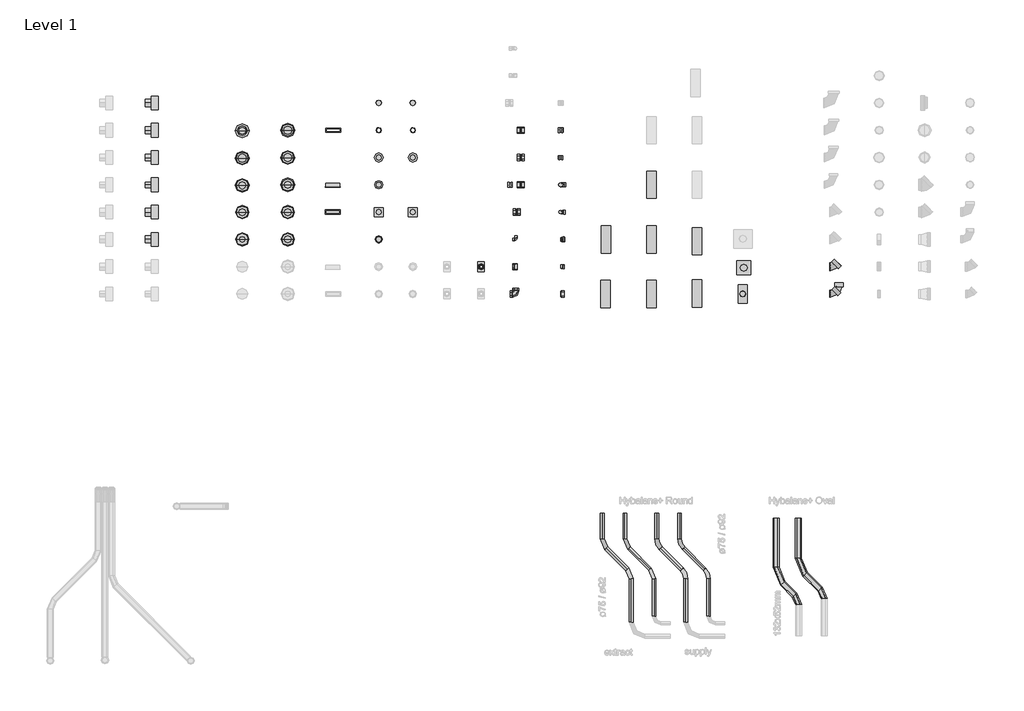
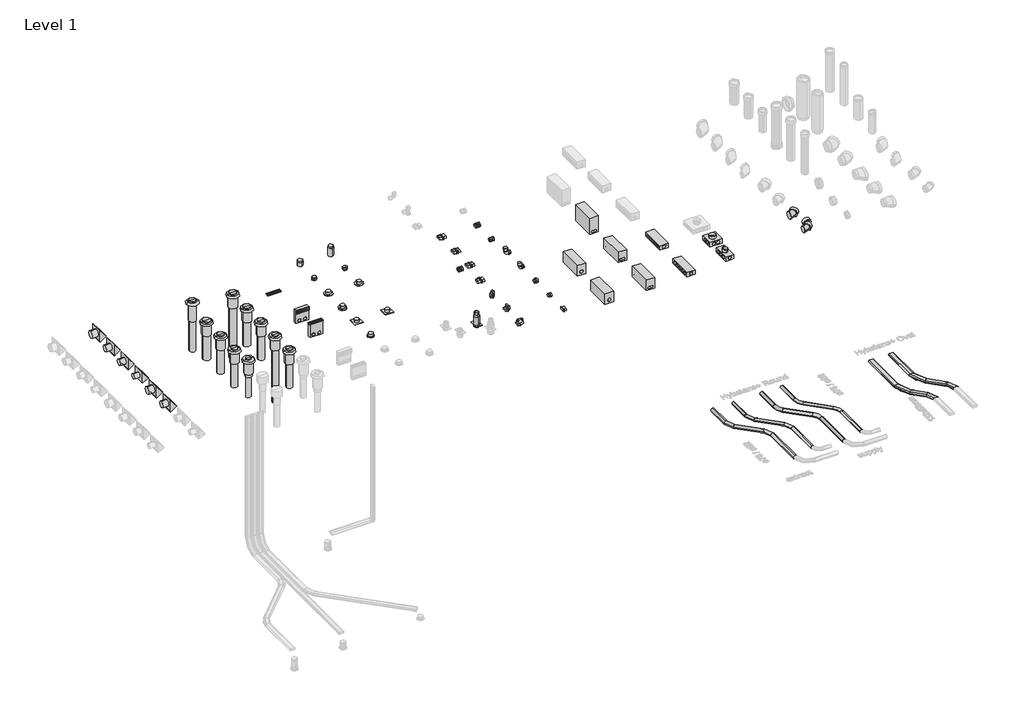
# One storey, part 3 of 5: 30 duct fittings, 28 duct segments, 27 air terminals, 2 coverings.
"""IFC4 building model written with IfcOpenShell, lengths in millimetres."""

from ifc_helpers import new_model, si_unit, point, frame, frame_2d, origin, place, context, project, spatial, polyline, circle_curve, trimmed, segment, composite_curve, outline, extrude, transform, mapped, element, save
from components import air_terminal_4240cf22, air_terminal_7d90cc17, air_terminal_4465b07e, air_terminal_abea36ea, air_terminal_9c352d63, air_terminal_46879f65, air_terminal_f5bad940, air_terminal_684b394b, air_terminal_f5742492, air_terminal_188eb895, floor_plenum_d3dd77eb, grille_332x94_5d2099c3, turn_edecbddc, black_160_5426341e, black_180_da10aded, wall_plenum_3c2bf3b1, wave_6b82bb6b, black_125_071c14e0, black_150_34886671, covering_845dcc57, duct_fitting_1cda5c5c, duct_fitting_089aa9a1, duct_fitting_6cd177ab, duct_fitting_c65a407a, duct_fitting_69f5a1d6, duct_fitting_607b8d79, duct_fitting_265251c9, duct_fitting_e02605c4, duct_fitting_4bbd28bd, duct_fitting_542e432b, duct_fitting_599ff9e1, duct_fitting_77628266, duct_fitting_394e68cb, duct_fitting_36d2aa07, duct_fitting_84124fbc, duct_fitting_f3df8d97, duct_fitting_2c451d22, duct_fitting_132x52_f9d3be6e, duct_fitting_132x52_e1013fcc, duct_fitting_132x52_nested_272e3c26, duct_fitting_132x52_fc9fea9f, duct_fitting_132x52_0ce7a236, duct_fitting_450_12_dn150_62d17831, duct_fitting_450_12_dn180_e2c94f1d, duct_segment_c730130c, duct_segment_8b9e26e7, duct_segment_5930516e, duct_segment_d282bd4d, extract_132x52_red_d2bc55af, extract_132x52_red_960e4565, supply_132x52_blue_7206dcc0

model = new_model("IFC4")

# Units and contexts
model_context = context("Model", 3, world=origin())
ifc_project = project(units=[si_unit("LENGTHUNIT", "METRE", prefix="MILLI")], contexts=[model_context])

# Site, building, storey
site = spatial("IfcSite", under=ifc_project)
building = spatial("IfcBuilding", under=site)
storey = spatial("IfcBuildingStorey", under=building, Name="Level 1", Elevation=0.0)

# Air terminals
placement = place(None, origin())
air_terminal_shape = air_terminal_4240cf22(model_context)
element("IfcAirTerminal", 1, ObjectType="NLRS_57_AIR_WPB_roof ventilation terminals_M&G : EPS Black, ø150 - L=1000mm", at=placement, inside=storey, context=model_context, shape_type="MappedRepresentation", body=[
    mapped(air_terminal_shape, transform((-12492.1903803, 8019.2351178, 0.0), x_axis=(1.0, 0.0, 0.0), y_axis=(0.0, 1.0, 0.0), z_axis=(0.0, 0.0, 1.0))),
])
air_terminal_2_shape = air_terminal_7d90cc17(model_context)
element("IfcAirTerminal", 2, ObjectType="NLRS_57_AIR_WPB_roof ventilation terminals_M&G : EPS Terra, ø150 - L=1000mm", at=placement, inside=storey, context=model_context, shape_type="MappedRepresentation", body=[
    mapped(air_terminal_2_shape, transform((-13492.1903803, 8619.2351178, 0.0), x_axis=(1.0, 0.0, 0.0), y_axis=(0.0, 1.0, 0.0), z_axis=(0.0, 0.0, 1.0))),
])
air_terminal_3_shape = air_terminal_4465b07e(model_context)
element("IfcAirTerminal", 3, ObjectType="NLRS_57_AIR_WPB_roof ventilation terminals_M&G : EPS Black, ø150 - L=1750mm", at=placement, inside=storey, context=model_context, shape_type="MappedRepresentation", body=[
    mapped(air_terminal_3_shape, transform((-12492.1903803, 8619.2351178, 0.0), x_axis=(1.0, 0.0, 0.0), y_axis=(0.0, 1.0, 0.0), z_axis=(0.0, 0.0, 1.0))),
])
air_terminal_4_shape = air_terminal_abea36ea(model_context)
element("IfcAirTerminal", 4, ObjectType="NLRS_57_AIR_WPB_roof ventilation terminals_M&G : EPS Terra, ø180 - L=1000mm", at=placement, inside=storey, context=model_context, shape_type="MappedRepresentation", body=[
    mapped(air_terminal_4_shape, transform((-13492.1903803, 9806.3807486, 0.0), x_axis=(1.0, 0.0, 0.0), y_axis=(0.0, 1.0, 0.0), z_axis=(0.0, 0.0, 1.0))),
])
air_terminal_5_shape = air_terminal_9c352d63(model_context)
element("IfcAirTerminal", 5, ObjectType="NLRS_57_AIR_WPB_roof ventilation terminals_M&G : EPS Black, ø180 - L=1675mm", at=placement, inside=storey, context=model_context, shape_type="MappedRepresentation", body=[
    mapped(air_terminal_5_shape, transform((-12492.1903803, 10419.2351178, 0.0), x_axis=(1.0, 0.0, 0.0), y_axis=(0.0, 1.0, 0.0), z_axis=(0.0, 0.0, 1.0))),
])
air_terminal_6_shape = air_terminal_46879f65(model_context)
element("IfcAirTerminal", 6, ObjectType="NLRS_57_AIR_WPB_roof ventilation terminals_M&G : PP Black, ø150 - L=1310mm", at=placement, inside=storey, context=model_context, shape_type="MappedRepresentation", body=[
    mapped(air_terminal_6_shape, transform((-13492.1903803, 10406.3807486, 0.0), x_axis=(1.0, 0.0, 0.0), y_axis=(0.0, 1.0, 0.0), z_axis=(0.0, 0.0, 1.0))),
])
air_terminal_7_shape = air_terminal_f5bad940(model_context)
element("IfcAirTerminal", 7, ObjectType="NLRS_57_AIR_WPB_roof ventilation terminals_M&G : EPS Black, ø160 - L=1000mm", at=placement, inside=storey, context=model_context, shape_type="MappedRepresentation", body=[
    mapped(air_terminal_7_shape, transform((-12492.1903803, 9219.2351178, 0.0), x_axis=(1.0, 0.0, 0.0), y_axis=(0.0, 1.0, 0.0), z_axis=(0.0, 0.0, 1.0))),
])
element("IfcAirTerminal", 8, ObjectType="NLRS_57_AIR_WPB_roof ventilation terminals_M&G : EPS Terra, ø160 - L=1000mm", at=placement, inside=storey, context=model_context, shape_type="MappedRepresentation", body=[
    mapped(air_terminal_7_shape, transform((-13492.1903803, 9206.3807486, 0.0), x_axis=(1.0, 0.0, 0.0), y_axis=(0.0, 1.0, 0.0), z_axis=(0.0, 0.0, 1.0))),
])
air_terminal_8_shape = air_terminal_684b394b(model_context)
element("IfcAirTerminal", 9, ObjectType="NLRS_57_AIR_WPB_roof ventilation terminals_M&G : EPS Terra, ø125 - L=1000mm", at=placement, inside=storey, context=model_context, shape_type="MappedRepresentation", body=[
    mapped(air_terminal_8_shape, transform((-13492.1903803, 8019.2351178, 0.0), x_axis=(1.0, 0.0, 0.0), y_axis=(0.0, 1.0, 0.0), z_axis=(0.0, 0.0, 1.0))),
])
air_terminal_9_shape = air_terminal_f5742492(model_context)
element("IfcAirTerminal", 10, ObjectType="NLRS_57_AIR_WPB_extraction air valve_M&G : Kwadrant", at=placement, inside=storey, context=model_context, shape_type="MappedRepresentation", body=[
    mapped(air_terminal_9_shape, transform((-10492.1903803, 8019.2351178, 0.0), x_axis=(1.0, 0.0, 0.0), y_axis=(0.0, 1.0, 0.0), z_axis=(0.0, 0.0, 1.0))),
])
air_terminal_10_shape = air_terminal_188eb895(model_context)
element("IfcAirTerminal", 11, ObjectType="NLRS_57_AIR_WPB_extraction air valve_M&G : Maze", at=placement, inside=storey, context=model_context, shape_type="MappedRepresentation", body=[
    mapped(air_terminal_10_shape, transform((-10492.1903803, 8619.2351178, 0.0), x_axis=(1.0, 0.0, 0.0), y_axis=(0.0, 1.0, 0.0), z_axis=(0.0, 0.0, 1.0))),
])
element("IfcAirTerminal", 12, ObjectType="NLRS_57_AIR_WPB_supply air valve_M&G : Maze", at=placement, inside=storey, context=model_context, shape_type="MappedRepresentation", body=[
    mapped(air_terminal_10_shape, transform((-9742.1903803, 8619.2351178, 0.0), x_axis=(1.0, 0.0, 0.0), y_axis=(0.0, 1.0, 0.0), z_axis=(0.0, 0.0, 1.0))),
])
element("IfcAirTerminal", 13, ObjectType="NLRS_57_AIR_WPB_roof ventilation terminals_M&G : EPS Black, ø180 - L=1000mm", at=placement, inside=storey, context=model_context, shape_type="MappedRepresentation", body=[
    mapped(air_terminal_4_shape, transform((-12492.1903803, 9819.2351178, 0.0), x_axis=(1.0, 0.0, 0.0), y_axis=(0.0, 1.0, 0.0), z_axis=(0.0, 0.0, 1.0))),
])
floor_plenum_shape = floor_plenum_d3dd77eb(model_context)
element("IfcAirTerminal", 14, ObjectType="NLRS_57_AIR_LB_wall_floor mounted plenum with grill_M&G : Floor plenum", at=placement, inside=storey, context=model_context, shape_type="MappedRepresentation", body=[
    mapped(floor_plenum_shape, transform((-11500.4403803, 8619.2351178, 0.0), x_axis=(1.0, 0.0, 0.0), y_axis=(0.0, 1.0, 0.0), z_axis=(0.0, 0.0, 1.0))),
])
grille_332x94_shape = grille_332x94_5d2099c3(model_context)
element("IfcAirTerminal", 15, ObjectType="NLRS_57_AIR_WPB_grille for plenum_M&G : Grille 332x94", at=placement, inside=storey, context=model_context, shape_type="MappedRepresentation", body=[
    mapped(grille_332x94_shape, transform((-11489.4403803, 10419.2351178, 0.0), x_axis=(1.0, 0.0, 0.0), y_axis=(0.0, -1.0, 0.0), z_axis=(0.0, 0.0, -1.0))),
])
element("IfcAirTerminal", 16, ObjectType="NLRS_57_AIR_WPB_grille for plenum_M&G : Grille 332x94", at=placement, inside=storey, context=model_context, shape_type="MappedRepresentation", body=[
    mapped(grille_332x94_shape, transform((-11500.4403803, 8619.2351178, 342.0), x_axis=(1.0, 0.0, 0.0), y_axis=(0.0, -1.0, 0.0), z_axis=(0.0, 0.0, -1.0))),
])
element("IfcAirTerminal", 17, ObjectType="NLRS_57_AIR_WPB_grille for plenum_M&G : Grille 332x94", at=placement, inside=storey, context=model_context, shape_type="MappedRepresentation", body=[
    mapped(grille_332x94_shape, transform((-11500.4403803, 9172.7351178, 295.0), x_axis=(1.0, 0.0, 0.0), y_axis=(0.0, 0.0, -1.0), z_axis=(0.0, 1.0, 0.0))),
])
turn_shape = turn_edecbddc(model_context)
element("IfcAirTerminal", 18, ObjectType="NLRS_57_AIR_WPB_extraction air valve_M&G : Turn", at=placement, inside=storey, context=model_context, shape_type="MappedRepresentation", body=[
    mapped(turn_shape, transform((-10492.1903803, 9219.2351178, 0.0), x_axis=(1.0, 0.0, 0.0), y_axis=(0.0, 1.0, 0.0), z_axis=(0.0, 0.0, 1.0))),
])
black_160_shape = black_160_5426341e(model_context)
element("IfcAirTerminal", 19, ObjectType="NLRS_57_AIR_LB_walloutlet terminals_M&G : Unpainted aluminium 160", at=placement, inside=storey, context=model_context, shape_type="MappedRepresentation", body=[
    mapped(black_160_shape, transform((-15492.1903803, 8019.2351178, 0.0), x_axis=(1.0, 0.0, 0.0), y_axis=(0.0, 1.0, 0.0), z_axis=(0.0, 0.0, 1.0))),
])
black_180_shape = black_180_da10aded(model_context)
element("IfcAirTerminal", 20, ObjectType="NLRS_57_AIR_LB_walloutlet terminals_M&G : Unpainted aluminium 180", at=placement, inside=storey, context=model_context, shape_type="MappedRepresentation", body=[
    mapped(black_180_shape, transform((-15492.1903803, 8619.2351178, 0.0), x_axis=(1.0, 0.0, 0.0), y_axis=(0.0, 1.0, 0.0), z_axis=(0.0, 0.0, 1.0))),
])
wall_plenum_shape = wall_plenum_3c2bf3b1(model_context)
element("IfcAirTerminal", 21, ObjectType="NLRS_57_AIR_LB_wall_floor mounted plenum with grill_M&G : Wall plenum", at=placement, inside=storey, context=model_context, shape_type="MappedRepresentation", body=[
    mapped(wall_plenum_shape, transform((-11500.4403803, 9219.2351178, 0.0), x_axis=(1.0, 0.0, 0.0), y_axis=(0.0, 1.0, 0.0), z_axis=(0.0, 0.0, 1.0))),
])
ifc_wave_shape = wave_6b82bb6b(model_context)
element("IfcAirTerminal", 22, ObjectType="NLRS_57_AIR_WPB_extraction air valve_M&G : Wave", at=placement, inside=storey, context=model_context, shape_type="MappedRepresentation", body=[
    mapped(ifc_wave_shape, transform((-10492.1903803, 9819.2351178, 0.0), x_axis=(1.0, 0.0, 0.0), y_axis=(0.0, 1.0, 0.0), z_axis=(0.0, 0.0, 1.0))),
])
element("IfcAirTerminal", 23, ObjectType="NLRS_57_AIR_WPB_supply air valve_M&G : Wave", at=placement, inside=storey, context=model_context, shape_type="MappedRepresentation", body=[
    mapped(ifc_wave_shape, transform((-9742.1903803, 9819.2351178, 0.0), x_axis=(1.0, 0.0, 0.0), y_axis=(0.0, 1.0, 0.0), z_axis=(0.0, 0.0, 1.0))),
])
black_125_shape = black_125_071c14e0(model_context)
element("IfcAirTerminal", 24, ObjectType="NLRS_57_AIR_LB_walloutlet terminals_M&G : White 125", at=placement, inside=storey, context=model_context, shape_type="MappedRepresentation", body=[
    mapped(black_125_shape, transform((-15492.1903803, 9219.2351178, 0.0), x_axis=(1.0, 0.0, 0.0), y_axis=(0.0, 1.0, 0.0), z_axis=(0.0, 0.0, 1.0))),
])
black_150_shape = black_150_34886671(model_context)
element("IfcAirTerminal", 25, ObjectType="NLRS_57_AIR_LB_walloutlet terminals_M&G : White 150", at=placement, inside=storey, context=model_context, shape_type="MappedRepresentation", body=[
    mapped(black_150_shape, transform((-15492.1903803, 9819.2351178, 0.0), x_axis=(1.0, 0.0, 0.0), y_axis=(0.0, 1.0, 0.0), z_axis=(0.0, 0.0, 1.0))),
])
element("IfcAirTerminal", 26, ObjectType="NLRS_57_AIR_LB_walloutlet terminals_M&G : White 160", at=placement, inside=storey, context=model_context, shape_type="MappedRepresentation", body=[
    mapped(black_160_shape, transform((-15492.1903803, 10419.2351178, 0.0), x_axis=(1.0, 0.0, 0.0), y_axis=(0.0, 1.0, 0.0), z_axis=(0.0, 0.0, 1.0))),
])
element("IfcAirTerminal", 27, ObjectType="NLRS_57_AIR_LB_walloutlet terminals_M&G : White 180", at=placement, inside=storey, context=model_context, shape_type="MappedRepresentation", body=[
    mapped(black_180_shape, transform((-15492.1903803, 11019.2351178, 0.0), x_axis=(1.0, 0.0, 0.0), y_axis=(0.0, 1.0, 0.0), z_axis=(0.0, 0.0, 1.0))),
])

# Coverings
covering_shape = covering_845dcc57(model_context)
element("IfcCovering", 28, ObjectType="NLRS_57_DUF_UN_valve extension_M&G : L=40", at=placement, inside=storey, context=model_context, shape_type="MappedRepresentation", body=[
    mapped(covering_shape, transform((-10492.1903803, 10419.2351178, 0.0), x_axis=(1.0, 0.0, 0.0), y_axis=(0.0, 1.0, 0.0), z_axis=(0.0, 0.0, 1.0))),
])
element("IfcCovering", 29, ObjectType="NLRS_57_DUF_UN_valve extension_M&G : L=40", at=placement, inside=storey, context=model_context, shape_type="MappedRepresentation", body=[
    mapped(covering_shape, transform((-9742.1903803, 10419.2351178, 0.0), x_axis=(1.0, 0.0, 0.0), y_axis=(0.0, 1.0, 0.0), z_axis=(0.0, 0.0, 1.0))),
])

# Duct fittings
duct_fitting_shape = duct_fitting_1cda5c5c(model_context)
element("IfcDuctFitting", 30, ObjectType="NLRS_57_DUF_UN_connection piece round bend_M&G : ø75 ø92", at=placement, inside=storey, context=model_context, shape_type="MappedRepresentation", body=[
    mapped(duct_fitting_shape, transform((-6492.1903803, 8619.2351178, 0.0), x_axis=(-1.0000000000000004, 0.0, 0.0), y_axis=(0.0, -1.0000000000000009, 0.0), z_axis=(0.0, 0.0, 1.0000000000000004))),
])
duct_fitting_2_shape = duct_fitting_089aa9a1(model_context)
element("IfcDuctFitting", 31, ObjectType="NLRS_57_DUF_UN_air distribution manifold 350#12_M&G : 350#12 - DN150 (H=270)", at=placement, inside=storey, context=model_context, shape_type="MappedRepresentation", body=[
    mapped(duct_fitting_2_shape, transform((-5507.1903803, 6815.2351178, 0.0), x_axis=(0.0, 1.0000000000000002, 0.0), y_axis=(-1.0000000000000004, 0.0, 0.0), z_axis=(0.0, 0.0, 1.0000000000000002))),
])
element("IfcDuctFitting", 32, ObjectType="NLRS_57_DUF_UN_air distribution manifold 350#12_M&G : 350#12 - DN180 (H=270)", at=placement, inside=storey, context=model_context, shape_type="MappedRepresentation", body=[
    mapped(duct_fitting_2_shape, transform((-5492.1903803, 8019.2351178, 0.0), x_axis=(0.0, 1.0000000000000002, 0.0), y_axis=(-1.0000000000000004, 0.0, 0.0), z_axis=(0.0, 0.0, 1.0000000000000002))),
])
duct_fitting_3_shape = duct_fitting_6cd177ab(model_context)
element("IfcDuctFitting", 33, ObjectType="NLRS_57_DUF_UN_air distribution manifold oval #14_M&G : 350#14 - DN150 (H=270)", at=placement, inside=storey, context=model_context, shape_type="MappedRepresentation", body=[
    mapped(duct_fitting_3_shape, transform((-4492.1903803, 6819.2351178, 0.0), x_axis=(0.0, 1.0000000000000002, 0.0), y_axis=(-1.0000000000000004, 0.0, 0.0), z_axis=(0.0, 0.0, 1.0000000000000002))),
])
duct_fitting_4_shape = duct_fitting_c65a407a(model_context)
element("IfcDuctFitting", 34, ObjectType="NLRS_57_DUF_UN_air distribution manifold oval #14_M&G : 350#14 - DN180 (H=270)", at=placement, inside=storey, context=model_context, shape_type="MappedRepresentation", body=[
    mapped(duct_fitting_4_shape, transform((-4492.1903803, 8019.2351178, 0.0), x_axis=(0.0, 1.0000000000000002, 0.0), y_axis=(-1.0000000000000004, 0.0, 0.0), z_axis=(0.0, 0.0, 1.0000000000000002))),
])
duct_fitting_5_shape = duct_fitting_69f5a1d6(model_context)
element("IfcDuctFitting", 35, ObjectType="NLRS_57_DUF_UN_air distribution manifold oval #14_M&G : 350#14 XL - DN150 (H=420)", at=placement, inside=storey, context=model_context, shape_type="MappedRepresentation", body=[
    mapped(duct_fitting_5_shape, transform((-4492.1903803, 9219.2351178, 0.0), x_axis=(0.0, 1.0000000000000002, 0.0), y_axis=(-1.0000000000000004, 0.0, 0.0), z_axis=(0.0, 0.0, 1.0000000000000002))),
])
duct_fitting_6_shape = duct_fitting_607b8d79(model_context)
element("IfcDuctFitting", 36, ObjectType="NLRS_57_DUF_UN_air extraction plenum rectangular 400x200_M&G : 225#8 (H=110)", at=placement, inside=storey, context=model_context, shape_type="MappedRepresentation", body=[
    mapped(duct_fitting_6_shape, transform((-2492.1903803, 6819.2351178, 0.0), x_axis=(0.0, 1.0000000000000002, 0.0), y_axis=(-1.0000000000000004, 0.0, 0.0), z_axis=(0.0, 0.0, 1.0000000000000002))),
])
duct_fitting_7_shape = duct_fitting_265251c9(model_context)
element("IfcDuctFitting", 37, ObjectType="NLRS_57_DUF_UN_air extraction plenum square 300x300_M&G : 225#8 (H=110)", at=placement, inside=storey, context=model_context, shape_type="MappedRepresentation", body=[
    mapped(duct_fitting_7_shape, transform((-2466.9166865, 7396.4594995, 0.0), x_axis=(1.0, 0.0, 0.0), y_axis=(0.0, 1.0, 0.0), z_axis=(0.0, 0.0, 1.0))),
])
duct_fitting_8_shape = duct_fitting_e02605c4(model_context)
element("IfcDuctFitting", 38, ObjectType="NLRS_57_DUF_UN_bend EPP_M&G : ø125 - ø180", at=placement, inside=storey, context=model_context, shape_type="MappedRepresentation", body=[
    mapped(duct_fitting_8_shape, transform((-492.1903803, 6819.2351178, 0.0), x_axis=(1.0, 0.0, 0.0), y_axis=(0.0, 1.0, 0.0), z_axis=(0.0, 0.0, 1.0))),
])
element("IfcDuctFitting", 39, ObjectType="NLRS_57_DUF_UN_bend EPP_M&G : ø125 - ø180", at=placement, inside=storey, context=model_context, shape_type="MappedRepresentation", body=[
    mapped(duct_fitting_8_shape, transform((-371.9822275, 6939.4432706, 0.0), x_axis=(0.7071067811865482, 0.7071067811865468, 0.0), y_axis=(-0.7071067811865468, 0.7071067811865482, 0.0), z_axis=(0.0, 0.0, 1.0))),
])
duct_fitting_9_shape = duct_fitting_4bbd28bd(model_context)
element("IfcDuctFitting", 40, ObjectType="NLRS_57_DUF_UN_bend EPP_M&G : ø125 - ø180", at=placement, inside=storey, context=model_context, shape_type="MappedRepresentation", body=[
    mapped(duct_fitting_9_shape, transform((-492.1903803, 7419.2351178, 0.0), x_axis=(1.0, 0.0, 0.0), y_axis=(0.0, 1.0, 0.0), z_axis=(0.0, 0.0, 1.0))),
])
duct_fitting_10_shape = duct_fitting_542e432b(model_context)
element("IfcDuctFitting", 41, ObjectType="NLRS_57_DUF_UN_terminal extension_M&G : 117/125mm", at=placement, inside=storey, context=model_context, shape_type="MappedRepresentation", body=[
    mapped(duct_fitting_10_shape, transform((-9742.1903803, 11019.2351178, 0.0), x_axis=(0.0, 0.0, 1.0), y_axis=(0.0, -1.0, 0.0), z_axis=(1.0, 0.0, 0.0))),
])
duct_fitting_11_shape = duct_fitting_599ff9e1(model_context)
element("IfcDuctFitting", 42, ObjectType="NLRS_57_DUF_UN_terminal extension_M&G : 117/125mm", at=placement, inside=storey, context=model_context, shape_type="MappedRepresentation", body=[
    mapped(duct_fitting_11_shape, transform((-10492.1903803, 11019.2351178, 0.0), x_axis=(0.0, 0.0, 1.0), y_axis=(0.0, -1.0, 0.0), z_axis=(1.0, 0.0, 0.0))),
])
duct_fitting_12_shape = duct_fitting_77628266(model_context)
element("IfcDuctFitting", 43, ObjectType="NLRS_57_DUF_UN_sleeve joint_M&G : ø75 ø92", at=placement, inside=storey, context=model_context, shape_type="MappedRepresentation", body=[
    mapped(duct_fitting_12_shape, transform((-6492.1903803, 10419.2351178, 0.0), x_axis=(1.0, 0.0, 0.0), y_axis=(0.0, 1.0, 0.0), z_axis=(0.0, 0.0, 1.0))),
])
duct_fitting_13_shape = duct_fitting_394e68cb(model_context)
element("IfcDuctFitting", 44, ObjectType="NLRS_57_DUF_UN_connection piece round bend_M&G : ø75 ø92", at=placement, inside=storey, context=model_context, shape_type="MappedRepresentation", body=[
    mapped(duct_fitting_13_shape, transform((-6492.1903803, 9219.2351178, 0.0), x_axis=(-1.0000000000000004, 0.0, 0.0), y_axis=(0.0, -1.0000000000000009, 0.0), z_axis=(0.0, 0.0, 1.0000000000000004))),
])
duct_fitting_14_shape = duct_fitting_36d2aa07(model_context)
element("IfcDuctFitting", 45, ObjectType="NLRS_57_DUF_UN_terminal connection straight_M&G : ø117 - ø125 / ø92", at=placement, inside=storey, context=model_context, shape_type="MappedRepresentation", body=[
    mapped(duct_fitting_14_shape, transform((-8242.1903803, 7419.2351178, 180.0), x_axis=(0.0, 0.0, -1.0000000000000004), y_axis=(0.0, 1.0000000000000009, 0.0), z_axis=(1.0000000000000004, 0.0, 0.0))),
])
element("IfcDuctFitting", 46, ObjectType="NLRS_57_DUF_UN_sleeve joint-SH_M&G : ø75 ø92 (nested)", at=placement, inside=storey, context=model_context, shape_type="MappedRepresentation", body=[
    mapped(duct_fitting_12_shape, transform((-7604.4403803, 9219.2351178, -23.0), x_axis=(-1.0000000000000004, 0.0, 0.0), y_axis=(0.0, -1.0000000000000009, 0.0), z_axis=(0.0, 0.0, 1.0000000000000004))),
])
duct_fitting_15_shape = duct_fitting_84124fbc(model_context)
element("IfcDuctFitting", 47, ObjectType="NLRS_57_DUF_UN_connection piece round_M&G : ø75", at=placement, inside=storey, context=model_context, shape_type="MappedRepresentation", body=[
    mapped(duct_fitting_15_shape, transform((-6462.1903803, 7419.2351178, 0.0), x_axis=(1.0, 0.0, 0.0), y_axis=(0.0, 1.0, 0.0), z_axis=(0.0, 0.0, 1.0))),
])
duct_fitting_16_shape = duct_fitting_f3df8d97(model_context)
element("IfcDuctFitting", 48, ObjectType="NLRS_57_DUF_UN_connection piece round_M&G : ø92", at=placement, inside=storey, context=model_context, shape_type="MappedRepresentation", body=[
    mapped(duct_fitting_16_shape, transform((-6462.1903803, 8019.2351178, 0.0), x_axis=(1.0, 0.0, 0.0), y_axis=(0.0, 1.0, 0.0), z_axis=(0.0, 0.0, 1.0))),
])
duct_fitting_17_shape = duct_fitting_2c451d22(model_context)
element("IfcDuctFitting", 49, ObjectType="NLRS_57_DUF_UN_sleeve joint_M&G : ø75 ø92", at=placement, inside=storey, context=model_context, shape_type="MappedRepresentation", body=[
    mapped(duct_fitting_17_shape, transform((-6492.1903803, 9819.2351178, 0.0), x_axis=(1.0, 0.0, 0.0), y_axis=(0.0, 1.0, 0.0), z_axis=(0.0, 0.0, 1.0))),
])
duct_fitting_132x52_shape = duct_fitting_132x52_f9d3be6e(model_context)
element("IfcDuctFitting", 50, ObjectType="NLRS_57_DUF_UN_bend vertical_M&G : 132x52", at=placement, inside=storey, context=model_context, shape_type="MappedRepresentation", body=[
    mapped(duct_fitting_132x52_shape, transform((-7475.9903803, 7419.2351178, 0.0), x_axis=(1.0, 0.0, 0.0), y_axis=(0.0, 1.0, 0.0), z_axis=(0.0, 0.0, 1.0))),
])
duct_fitting_132x52_2_shape = duct_fitting_132x52_e1013fcc(model_context)
element("IfcDuctFitting", 51, ObjectType="NLRS_57_DUF_UN_connection piece oval_M&G : 132x52", at=placement, inside=storey, context=model_context, shape_type="MappedRepresentation", body=[
    mapped(duct_fitting_132x52_2_shape, transform((-6475.9903803, 6819.2351178, 0.0), x_axis=(1.0000000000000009, 0.0, 0.0), y_axis=(0.0, 1.0000000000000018, 0.0), z_axis=(0.0, 0.0, 1.0000000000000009))),
])
duct_fitting_132x52_nested_shape = duct_fitting_132x52_nested_272e3c26(model_context)
element("IfcDuctFitting", 52, ObjectType="NLRS_57_DUF_UN_sleeve joint oval_M&G : 132x52", at=placement, inside=storey, context=model_context, shape_type="MappedRepresentation", body=[
    mapped(duct_fitting_132x52_nested_shape, transform((-7459.9903803, 8619.2351178, 0.0), x_axis=(1.0, 0.0, 0.0), y_axis=(0.0, 1.0, 0.0), z_axis=(0.0, 0.0, 1.0))),
])
duct_fitting_132x52_3_shape = duct_fitting_132x52_fc9fea9f(model_context)
element("IfcDuctFitting", 53, ObjectType="NLRS_57_DUF_UN_bend horizontal_M&G : 132x52", at=placement, inside=storey, context=model_context, shape_type="MappedRepresentation", body=[
    mapped(duct_fitting_132x52_3_shape, transform((-7475.9903803, 6819.2351178, 0.0), x_axis=(1.0, 0.0, 0.0), y_axis=(0.0, 1.0, 0.0), z_axis=(0.0, 0.0, 1.0))),
])
duct_fitting_132x52_4_shape = duct_fitting_132x52_0ce7a236(model_context)
element("IfcDuctFitting", 54, ObjectType="NLRS_57_DUF_UN_bend vertical v2_M&G : 132x52", at=placement, inside=storey, context=model_context, shape_type="MappedRepresentation", body=[
    mapped(duct_fitting_132x52_4_shape, transform((-7475.9903803, 8019.2351178, 0.0), x_axis=(1.0, 0.0, 0.0), y_axis=(0.0, 1.0, 0.0), z_axis=(0.0, 0.0, 1.0))),
])
element("IfcDuctFitting", 55, ObjectType="NLRS_57_DUF_UN_sleeve joint oval-SH_M&G : 132x52 (nested)", at=placement, inside=storey, context=model_context, shape_type="MappedRepresentation", body=[
    mapped(duct_fitting_132x52_nested_shape, transform((-7364.9403803, 9219.2351178, 0.0), x_axis=(-1.0000000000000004, 0.0, 0.0), y_axis=(0.0, -1.0000000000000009, 0.0), z_axis=(0.0, 0.0, 1.0000000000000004))),
])
element("IfcDuctFitting", 56, ObjectType="NLRS_57_DUF_UN_sleeve joint oval-SH_M&G : 132x52 (nested)", at=placement, inside=storey, context=model_context, shape_type="MappedRepresentation", body=[
    mapped(duct_fitting_132x52_nested_shape, transform((-7364.9403803, 9819.2351178, 0.0), x_axis=(-1.0000000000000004, 0.0, 0.0), y_axis=(0.0, -1.0000000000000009, 0.0), z_axis=(0.0, 0.0, 1.0000000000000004))),
])
element("IfcDuctFitting", 57, ObjectType="NLRS_57_DUF_UN_sleeve joint oval-SH_M&G : 132x52 (nested)", at=placement, inside=storey, context=model_context, shape_type="MappedRepresentation", body=[
    mapped(duct_fitting_132x52_nested_shape, transform((-7364.9403803, 10419.2351178, 0.0), x_axis=(-1.0000000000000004, 0.0, 0.0), y_axis=(0.0, -1.0000000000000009, 0.0), z_axis=(0.0, 0.0, 1.0000000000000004))),
])
duct_fitting_450_12_dn150_shape = duct_fitting_450_12_dn150_62d17831(model_context)
element("IfcDuctFitting", 58, ObjectType="NLRS_57_DUF_UN_air plenum_M&G : 450#12 - DN150", at=placement, inside=storey, context=model_context, shape_type="MappedRepresentation", body=[
    mapped(duct_fitting_450_12_dn150_shape, transform((-3492.1903803, 6827.7351178, 0.0), x_axis=(0.0, 1.0, 0.0), y_axis=(-1.0, 0.0, 0.0), z_axis=(0.0, 0.0, 1.0))),
])
duct_fitting_450_12_dn180_shape = duct_fitting_450_12_dn180_e2c94f1d(model_context)
element("IfcDuctFitting", 59, ObjectType="NLRS_57_DUF_UN_air plenum_M&G : 450#12 - DN180", at=placement, inside=storey, context=model_context, shape_type="MappedRepresentation", body=[
    mapped(duct_fitting_450_12_dn180_shape, transform((-3492.1903803, 7977.2351178, 0.0), x_axis=(0.0, 1.0, 0.0), y_axis=(-1.0, 0.0, 0.0), z_axis=(0.0, 0.0, 1.0))),
])

# Duct segments
element("IfcDuctSegment", 60, ObjectType="NLRS_57.20_DU_Hybalans extract_M&G", at=placement, inside=storey, context=model_context, shape_type="SweptSolid", body=[
    extrude(outline(composite_curve([segment(trimmed(circle_curve(frame_2d((0.0, -1796.029493)), 26.0), [point((26.0, -1796.029493))], [point((0.0, -1822.029493))], False, "CARTESIAN"), True, "CONTINUOUS"), segment(trimmed(circle_curve(frame_2d((0.0, -1796.029493)), 26.0), [point((0.0, -1822.029493))], [point((-26.0, -1796.029493))], False, "CARTESIAN"), True, "CONTINUOUS"), segment(polyline([(-26.0, -1796.029493), (-26.0, -1716.029493)]), True, "CONTINUOUS"), segment(trimmed(circle_curve(frame_2d((0.0, -1716.029493)), 26.0), [point((-26.0, -1716.029493))], [point((0.0, -1690.029493))], False, "CARTESIAN"), True, "CONTINUOUS"), segment(trimmed(circle_curve(frame_2d((0.0, -1716.029493)), 26.0), [point((0.0, -1690.029493))], [point((26.0, -1716.029493))], False, "CARTESIAN"), True, "CONTINUOUS"), segment(polyline([(26.0, -1716.029493), (26.0, -1796.029493)]), True, "CONTINUOUS")], self_intersect=False)), frame((0.0, 811.2304775, 0.0), z_axis=(0.0, 1.0, 0.0), x_axis=(0.0, 0.0, 1.0)), (0.0, 0.0, 1.0), 1081.6432188),
])
element("IfcDuctSegment", 61, ObjectType="NLRS_57.20_DU_Hybalans extract_M&G", at=placement, inside=storey, context=model_context, shape_type="SweptSolid", body=[
    extrude(outline(composite_curve([segment(trimmed(circle_curve(frame_2d((-40.0, -66.0)), 26.0), [point((-40.0, -92.0))], [point((-66.0000001, -66.0))], False, "CARTESIAN"), True, "CONTINUOUS"), segment(trimmed(circle_curve(frame_2d((-40.0, -66.0)), 26.0), [point((-66.0000001, -66.0))], [point((-40.0, -40.0))], False, "CARTESIAN"), True, "CONTINUOUS"), segment(polyline([(-40.0, -40.0), (39.9999999, -40.0)]), True, "CONTINUOUS"), segment(trimmed(circle_curve(frame_2d((39.9999999, -66.0)), 26.0), [point((39.9999999, -40.0))], [point((66.0, -66.0))], False, "CARTESIAN"), True, "CONTINUOUS"), segment(trimmed(circle_curve(frame_2d((39.9999999, -66.0)), 26.0), [point((66.0, -66.0))], [point((39.9999999, -92.0))], False, "CARTESIAN"), True, "CONTINUOUS"), segment(polyline([(39.9999999, -92.0), (-40.0, -92.0)]), True, "CONTINUOUS")], self_intersect=False)), frame((-1348.9227118, 197.0169151, -66.0), z_axis=(-0.7071067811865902, 0.7071067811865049, 0.0), x_axis=(0.7071067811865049, 0.7071067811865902, 0.0)), (0.0, 0.0, 1.0), 368.6291501),
])
element("IfcDuctSegment", 62, ObjectType="NLRS_57.40_DU_Hybalans supply_M&G", at=placement, inside=storey, context=model_context, shape_type="SweptSolid", body=[
    extrude(outline(composite_curve([segment(polyline([(26.0, -1224.7720025), (26.0, -1304.7720025)]), True, "CONTINUOUS"), segment(trimmed(circle_curve(frame_2d((0.0, -1304.7720025)), 26.0), [point((26.0, -1304.7720025))], [point((0.0, -1330.7720025))], False, "CARTESIAN"), True, "CONTINUOUS"), segment(trimmed(circle_curve(frame_2d((0.0, -1304.7720025)), 26.0), [point((0.0, -1330.7720025))], [point((-26.0, -1304.7720025))], False, "CARTESIAN"), True, "CONTINUOUS"), segment(polyline([(-26.0, -1304.7720025), (-26.0, -1224.7720025)]), True, "CONTINUOUS"), segment(trimmed(circle_curve(frame_2d((0.0, -1224.7720025)), 26.0), [point((-26.0, -1224.7720025))], [point((0.0, -1198.7720025))], False, "CARTESIAN"), True, "CONTINUOUS"), segment(trimmed(circle_curve(frame_2d((0.0, -1224.7720025)), 26.0), [point((0.0, -1198.7720025))], [point((26.0, -1224.7720025))], False, "CARTESIAN"), True, "CONTINUOUS")], self_intersect=False)), frame((0.0, 1011.2304775, 0.0), z_axis=(0.0, 1.0, 0.0), x_axis=(0.0, 0.0, 1.0)), (0.0, 0.0, 1.0), 881.6432188),
])
element("IfcDuctSegment", 63, ObjectType="NLRS_57.40_DU_Hybalans supply_M&G", at=placement, inside=storey, context=model_context, shape_type="SweptSolid", body=[
    extrude(outline(composite_curve([segment(trimmed(circle_curve(frame_2d((-40.0000001, -66.0)), 26.0), [point((-40.0000001, -92.0))], [point((-66.0000001, -66.0))], False, "CARTESIAN"), True, "CONTINUOUS"), segment(trimmed(circle_curve(frame_2d((-40.0000001, -66.0)), 26.0), [point((-66.0000001, -66.0))], [point((-40.0000001, -40.0))], False, "CARTESIAN"), True, "CONTINUOUS"), segment(polyline([(-40.0000001, -40.0), (39.9999999, -40.0)]), True, "CONTINUOUS"), segment(trimmed(circle_curve(frame_2d((39.9999999, -66.0)), 26.0), [point((39.9999999, -40.0))], [point((66.0, -66.0))], False, "CARTESIAN"), True, "CONTINUOUS"), segment(trimmed(circle_curve(frame_2d((39.9999999, -66.0)), 26.0), [point((66.0, -66.0))], [point((39.9999999, -92.0))], False, "CARTESIAN"), True, "CONTINUOUS"), segment(polyline([(39.9999999, -92.0), (-40.0000001, -92.0)]), True, "CONTINUOUS")], self_intersect=False)), frame((-786.9545432, 326.306237, -66.0), z_axis=(-0.7071067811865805, 0.7071067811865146, 0.0), x_axis=(0.7071067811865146, 0.7071067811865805, 0.0)), (0.0, 0.0, 1.0), 468.6291501),
])
element("IfcDuctSegment", 64, ObjectType="NLRS_57.40_DU_Hybalans supply_M&G", at=placement, inside=storey, context=model_context, shape_type="SweptSolid", body=[
    extrude(outline(composite_curve([segment(trimmed(circle_curve(frame_2d((0.0, -4379.126612)), 46.0), [point((0.0, -4425.126612))], [point((-46.0, -4379.126612))], False, "CARTESIAN"), True, "CONTINUOUS"), segment(trimmed(circle_curve(frame_2d((0.0, -4379.126612)), 46.0), [point((-46.0, -4379.126612))], [point((0.0, -4333.126612))], False, "CARTESIAN"), True, "CONTINUOUS"), segment(trimmed(circle_curve(frame_2d((0.0, -4379.126612)), 46.0), [point((0.0, -4333.126612))], [point((46.0, -4379.126612))], False, "CARTESIAN"), True, "CONTINUOUS"), segment(trimmed(circle_curve(frame_2d((0.0, -4379.126612)), 46.0), [point((46.0, -4379.126612))], [point((0.0, -4425.126612))], False, "CARTESIAN"), True, "CONTINUOUS")], self_intersect=False)), frame((0.0, 1442.5269861, 0.0), z_axis=(0.0, 1.0, 0.0), x_axis=(0.0, 0.0, 1.0)), (0.0, 0.0, 1.0), 550.791108),
])
element("IfcDuctSegment", 65, ObjectType="NLRS_57.40_DU_Hybalans supply_M&G", at=placement, inside=storey, context=model_context, shape_type="SweptSolid", body=[
    extrude(outline(composite_curve([segment(trimmed(circle_curve(frame_2d((0.0, 46.0)), 46.0), [point((46.0, 46.0))], [point((0.0, 0.0))], False, "CARTESIAN"), True, "CONTINUOUS"), segment(trimmed(circle_curve(frame_2d((0.0, 46.0)), 46.0), [point((0.0, 0.0))], [point((-46.0000001, 46.0))], False, "CARTESIAN"), True, "CONTINUOUS"), segment(trimmed(circle_curve(frame_2d((0.0, 46.0)), 46.0), [point((-46.0000001, 46.0))], [point((0.0, 92.0))], False, "CARTESIAN"), True, "CONTINUOUS"), segment(trimmed(circle_curve(frame_2d((0.0, 46.0)), 46.0), [point((0.0, 92.0))], [point((46.0, 46.0))], False, "CARTESIAN"), True, "CONTINUOUS")], self_intersect=False)), frame((-3827.5804773, 766.7167827, 46.0), z_axis=(-0.7071067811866, 0.7071067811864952, 0.0), x_axis=(0.7071067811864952, 0.7071067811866, 0.0)), (0.0, 0.0, 1.0), 655.7399552),
])
element("IfcDuctSegment", 66, ObjectType="NLRS_57.40_DU_Hybalans supply_M&G", at=placement, inside=storey, context=model_context, shape_type="SweptSolid", body=[
    extrude(outline(composite_curve([segment(trimmed(circle_curve(frame_2d((0.0, -3739.7125117)), 46.0), [point((0.0, -3785.7125117))], [point((-46.0, -3739.7125117))], False, "CARTESIAN"), True, "CONTINUOUS"), segment(trimmed(circle_curve(frame_2d((0.0, -3739.7125117)), 46.0), [point((-46.0, -3739.7125117))], [point((0.0, -3693.7125117))], False, "CARTESIAN"), True, "CONTINUOUS"), segment(trimmed(circle_curve(frame_2d((0.0, -3739.7125117)), 46.0), [point((0.0, -3693.7125117))], [point((46.0, -3739.7125117))], False, "CARTESIAN"), True, "CONTINUOUS"), segment(trimmed(circle_curve(frame_2d((0.0, -3739.7125117)), 46.0), [point((46.0, -3739.7125117))], [point((0.0, -3785.7125117))], False, "CARTESIAN"), True, "CONTINUOUS")], self_intersect=False)), frame((0.0, -403.733097, 0.0), z_axis=(0.0, 1.0, 0.0), x_axis=(0.0, 0.0, 1.0)), (0.0, 0.0, 1.0), 958.3178454),
])
element("IfcDuctSegment", 67, ObjectType="NLRS_57.20_DU_Hybalans extract_M&G", at=placement, inside=storey, context=model_context, shape_type="SweptSolid", body=[
    extrude(outline(composite_curve([segment(trimmed(circle_curve(frame_2d((0.0, -37.5)), 37.5), [point((-37.5, -37.5))], [point((0.0, 0.0))], False, "CARTESIAN"), True, "CONTINUOUS"), segment(trimmed(circle_curve(frame_2d((0.0, -37.5)), 37.5), [point((0.0, 0.0))], [point((37.5, -37.5))], False, "CARTESIAN"), True, "CONTINUOUS"), segment(trimmed(circle_curve(frame_2d((0.0, -37.5)), 37.5), [point((37.5, -37.5))], [point((0.0, -75.0))], False, "CARTESIAN"), True, "CONTINUOUS"), segment(trimmed(circle_curve(frame_2d((0.0, -37.5)), 37.5), [point((0.0, -75.0))], [point((-37.5, -37.5))], False, "CARTESIAN"), True, "CONTINUOUS")], self_intersect=False)), frame((-4527.5804773, 766.7167827, -37.5), z_axis=(-0.7071067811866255, 0.7071067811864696, 0.0), x_axis=(0.7071067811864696, 0.7071067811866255, 0.0)), (0.0, 0.0, 1.0), 655.7399552),
])
element("IfcDuctSegment", 68, ObjectType="NLRS_57.20_DU_Hybalans extract_M&G", at=placement, inside=storey, context=model_context, shape_type="SweptSolid", body=[
    extrude(outline(composite_curve([segment(trimmed(circle_curve(frame_2d((0.0, -4439.7125117)), 37.5), [point((0.0, -4402.2125117))], [point((37.5, -4439.7125117))], False, "CARTESIAN"), True, "CONTINUOUS"), segment(trimmed(circle_curve(frame_2d((0.0, -4439.7125117)), 37.5), [point((37.5, -4439.7125117))], [point((0.0, -4477.2125117))], False, "CARTESIAN"), True, "CONTINUOUS"), segment(trimmed(circle_curve(frame_2d((0.0, -4439.7125117)), 37.5), [point((0.0, -4477.2125117))], [point((-37.5, -4439.7125117))], False, "CARTESIAN"), True, "CONTINUOUS"), segment(trimmed(circle_curve(frame_2d((0.0, -4439.7125117)), 37.5), [point((-37.5, -4439.7125117))], [point((0.0, -4402.2125117))], False, "CARTESIAN"), True, "CONTINUOUS")], self_intersect=False)), frame((0.0, -271.151183, 0.0), z_axis=(0.0, 1.0, 0.0), x_axis=(0.0, 0.0, 1.0)), (0.0, 0.0, 1.0), 825.7359313),
])
element("IfcDuctSegment", 69, ObjectType="NLRS_57.20_DU_Hybalans extract_M&G", at=placement, inside=storey, context=model_context, shape_type="SweptSolid", body=[
    extrude(outline(composite_curve([segment(trimmed(circle_curve(frame_2d((0.0, -5079.126612)), 37.5), [point((0.0, -5116.626612))], [point((-37.5, -5079.126612))], False, "CARTESIAN"), True, "CONTINUOUS"), segment(trimmed(circle_curve(frame_2d((0.0, -5079.126612)), 37.5), [point((-37.5, -5079.126612))], [point((0.0, -5041.626612))], False, "CARTESIAN"), True, "CONTINUOUS"), segment(trimmed(circle_curve(frame_2d((0.0, -5079.126612)), 37.5), [point((0.0, -5041.626612))], [point((37.5, -5079.126612))], False, "CARTESIAN"), True, "CONTINUOUS"), segment(trimmed(circle_curve(frame_2d((0.0, -5079.126612)), 37.5), [point((37.5, -5079.126612))], [point((0.0, -5116.626612))], False, "CARTESIAN"), True, "CONTINUOUS")], self_intersect=False)), frame((0.0, 1442.5269861, 0.0), z_axis=(0.0, 1.0, 0.0), x_axis=(0.0, 0.0, 1.0)), (0.0, 0.0, 1.0), 550.791108),
])
element("IfcDuctSegment", 70, ObjectType="NLRS_57.20_DU_Hybalans extract_M&G", at=placement, inside=storey, context=model_context, shape_type="SweptSolid", body=[
    extrude(outline(composite_curve([segment(trimmed(circle_curve(frame_2d((0.0, -46.0)), 46.0), [point((-46.0000001, -46.0))], [point((0.0, 0.0))], False, "CARTESIAN"), True, "CONTINUOUS"), segment(trimmed(circle_curve(frame_2d((0.0, -46.0)), 46.0), [point((0.0, 0.0))], [point((46.0, -46.0))], False, "CARTESIAN"), True, "CONTINUOUS"), segment(trimmed(circle_curve(frame_2d((0.0, -46.0)), 46.0), [point((46.0, -46.0))], [point((0.0, -92.0))], False, "CARTESIAN"), True, "CONTINUOUS"), segment(trimmed(circle_curve(frame_2d((0.0, -46.0)), 46.0), [point((0.0, -92.0))], [point((-46.0000001, -46.0))], False, "CARTESIAN"), True, "CONTINUOUS")], self_intersect=False)), frame((-5027.5804773, 766.7167827, -46.0), z_axis=(-0.7071067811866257, 0.7071067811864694, 0.0), x_axis=(0.7071067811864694, 0.7071067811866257, 0.0)), (0.0, 0.0, 1.0), 655.7399552),
])
element("IfcDuctSegment", 71, ObjectType="NLRS_57.20_DU_Hybalans extract_M&G", at=placement, inside=storey, context=model_context, shape_type="SweptSolid", body=[
    extrude(outline(composite_curve([segment(trimmed(circle_curve(frame_2d((0.0, -4939.7125117)), 46.0), [point((0.0, -4893.7125117))], [point((46.0, -4939.7125117))], False, "CARTESIAN"), True, "CONTINUOUS"), segment(trimmed(circle_curve(frame_2d((0.0, -4939.7125117)), 46.0), [point((46.0, -4939.7125117))], [point((0.0, -4985.7125117))], False, "CARTESIAN"), True, "CONTINUOUS"), segment(trimmed(circle_curve(frame_2d((0.0, -4939.7125117)), 46.0), [point((0.0, -4985.7125117))], [point((-46.0, -4939.7125117))], False, "CARTESIAN"), True, "CONTINUOUS"), segment(trimmed(circle_curve(frame_2d((0.0, -4939.7125117)), 46.0), [point((-46.0, -4939.7125117))], [point((0.0, -4893.7125117))], False, "CARTESIAN"), True, "CONTINUOUS")], self_intersect=False)), frame((0.0, -403.733097, 0.0), z_axis=(0.0, 1.0, 0.0), x_axis=(0.0, 0.0, 1.0)), (0.0, 0.0, 1.0), 958.3178454),
])
element("IfcDuctSegment", 72, ObjectType="NLRS_57.20_DU_Hybalans extract_M&G", at=placement, inside=storey, context=model_context, shape_type="SweptSolid", body=[
    extrude(outline(composite_curve([segment(trimmed(circle_curve(frame_2d((0.0, -5579.126612)), 46.0), [point((0.0, -5625.126612))], [point((-46.0, -5579.126612))], False, "CARTESIAN"), True, "CONTINUOUS"), segment(trimmed(circle_curve(frame_2d((0.0, -5579.126612)), 46.0), [point((-46.0, -5579.126612))], [point((0.0, -5533.126612))], False, "CARTESIAN"), True, "CONTINUOUS"), segment(trimmed(circle_curve(frame_2d((0.0, -5579.126612)), 46.0), [point((0.0, -5533.126612))], [point((46.0, -5579.126612))], False, "CARTESIAN"), True, "CONTINUOUS"), segment(trimmed(circle_curve(frame_2d((0.0, -5579.126612)), 46.0), [point((46.0, -5579.126612))], [point((0.0, -5625.126612))], False, "CARTESIAN"), True, "CONTINUOUS")], self_intersect=False)), frame((0.0, 1442.5269861, 0.0), z_axis=(0.0, 1.0, 0.0), x_axis=(0.0, 0.0, 1.0)), (0.0, 0.0, 1.0), 550.791108),
])
element("IfcDuctSegment", 73, ObjectType="NLRS_57.40_DU_Hybalans supply_M&G", at=placement, inside=storey, context=model_context, shape_type="SweptSolid", body=[
    extrude(outline(composite_curve([segment(trimmed(circle_curve(frame_2d((0.0, -37.5)), 37.5), [point((-37.5, -37.5))], [point((0.0, 0.0))], False, "CARTESIAN"), True, "CONTINUOUS"), segment(trimmed(circle_curve(frame_2d((0.0, -37.5)), 37.5), [point((0.0, 0.0))], [point((37.5, -37.5))], False, "CARTESIAN"), True, "CONTINUOUS"), segment(trimmed(circle_curve(frame_2d((0.0, -37.5)), 37.5), [point((37.5, -37.5))], [point((0.0, -75.0))], False, "CARTESIAN"), True, "CONTINUOUS"), segment(trimmed(circle_curve(frame_2d((0.0, -37.5)), 37.5), [point((0.0, -75.0))], [point((-37.5, -37.5))], False, "CARTESIAN"), True, "CONTINUOUS")], self_intersect=False)), frame((-3327.5804773, 766.7167827, -37.5), z_axis=(-0.7071067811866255, 0.7071067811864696, 0.0), x_axis=(0.7071067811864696, 0.7071067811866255, 0.0)), (0.0, 0.0, 1.0), 655.7399552),
])
element("IfcDuctSegment", 74, ObjectType="NLRS_57.40_DU_Hybalans supply_M&G", at=placement, inside=storey, context=model_context, shape_type="SweptSolid", body=[
    extrude(outline(composite_curve([segment(trimmed(circle_curve(frame_2d((0.0, -3239.7125117)), 37.5), [point((0.0, -3202.2125117))], [point((37.5, -3239.7125117))], False, "CARTESIAN"), True, "CONTINUOUS"), segment(trimmed(circle_curve(frame_2d((0.0, -3239.7125117)), 37.5), [point((37.5, -3239.7125117))], [point((0.0, -3277.2125117))], False, "CARTESIAN"), True, "CONTINUOUS"), segment(trimmed(circle_curve(frame_2d((0.0, -3239.7125117)), 37.5), [point((0.0, -3277.2125117))], [point((-37.5, -3239.7125117))], False, "CARTESIAN"), True, "CONTINUOUS"), segment(trimmed(circle_curve(frame_2d((0.0, -3239.7125117)), 37.5), [point((-37.5, -3239.7125117))], [point((0.0, -3202.2125117))], False, "CARTESIAN"), True, "CONTINUOUS")], self_intersect=False)), frame((0.0, -271.151183, 0.0), z_axis=(0.0, 1.0, 0.0), x_axis=(0.0, 0.0, 1.0)), (0.0, 0.0, 1.0), 825.7359313),
])
element("IfcDuctSegment", 75, ObjectType="NLRS_57.40_DU_Hybalans supply_M&G", at=placement, inside=storey, context=model_context, shape_type="SweptSolid", body=[
    extrude(outline(composite_curve([segment(trimmed(circle_curve(frame_2d((0.0, -3879.126612)), 37.5), [point((0.0, -3916.626612))], [point((-37.5, -3879.126612))], False, "CARTESIAN"), True, "CONTINUOUS"), segment(trimmed(circle_curve(frame_2d((0.0, -3879.126612)), 37.5), [point((-37.5, -3879.126612))], [point((0.0, -3841.626612))], False, "CARTESIAN"), True, "CONTINUOUS"), segment(trimmed(circle_curve(frame_2d((0.0, -3879.126612)), 37.5), [point((0.0, -3841.626612))], [point((37.5, -3879.126612))], False, "CARTESIAN"), True, "CONTINUOUS"), segment(trimmed(circle_curve(frame_2d((0.0, -3879.126612)), 37.5), [point((37.5, -3879.126612))], [point((0.0, -3916.626612))], False, "CARTESIAN"), True, "CONTINUOUS")], self_intersect=False)), frame((0.0, 1442.5269861, 0.0), z_axis=(0.0, 1.0, 0.0), x_axis=(0.0, 0.0, 1.0)), (0.0, 0.0, 1.0), 550.791108),
])
duct_segment_shape = duct_segment_c730130c(model_context)
element("IfcDuctSegment", 76, ObjectType="NLRS_57_DUF_UN_Hybalans flexbend round_M&G : supply ø75 ø92 (blue)", at=placement, inside=storey, context=model_context, shape_type="MappedRepresentation", body=[
    mapped(duct_segment_shape, transform((-3739.7125117, 678.848817, 0.0), x_axis=(0.0, 1.0, 0.0), y_axis=(-1.0, 0.0, 0.0), z_axis=(0.0, 0.0, 1.0))),
])
element("IfcDuctSegment", 77, ObjectType="NLRS_57_DUF_UN_Hybalans flexbend round_M&G : supply ø75 ø92 (blue)", at=placement, inside=storey, context=model_context, shape_type="MappedRepresentation", body=[
    mapped(duct_segment_shape, transform((-4379.126612, 1318.2629174, 0.0), x_axis=(0.0, -1.0, 0.0), y_axis=(1.0, 0.0, 0.0), z_axis=(0.0, 0.0, 1.0))),
])
duct_segment_2_shape = duct_segment_8b9e26e7(model_context)
element("IfcDuctSegment", 78, ObjectType="NLRS_57_DUF_UN_Hybalans flexbend round_M&G : extract ø75 ø92 (red)", at=placement, inside=storey, context=model_context, shape_type="MappedRepresentation", body=[
    mapped(duct_segment_2_shape, transform((-4939.7125117, 678.848817, 0.0), x_axis=(0.0, 1.0, 0.0), y_axis=(-1.0, 0.0, 0.0), z_axis=(0.0, 0.0, 1.0))),
])
element("IfcDuctSegment", 79, ObjectType="NLRS_57_DUF_UN_Hybalans flexbend round_M&G : extract ø75 ø92 (red)", at=placement, inside=storey, context=model_context, shape_type="MappedRepresentation", body=[
    mapped(duct_segment_2_shape, transform((-5579.126612, 1318.2629174, 0.0), x_axis=(0.0, -1.0, 0.0), y_axis=(1.0, 0.0, 0.0), z_axis=(0.0, 0.0, 1.0))),
])
duct_segment_3_shape = duct_segment_5930516e(model_context)
element("IfcDuctSegment", 80, ObjectType="NLRS_57_DUF_UN_Hybalans flexbend round_M&G : supply ø75 ø92 (blue)", at=placement, inside=storey, context=model_context, shape_type="MappedRepresentation", body=[
    mapped(duct_segment_3_shape, transform((-3239.7125117, 678.848817, 0.0), x_axis=(0.0, 1.0, 0.0), y_axis=(-1.0, 0.0, 0.0), z_axis=(0.0, 0.0, 1.0))),
])
element("IfcDuctSegment", 81, ObjectType="NLRS_57_DUF_UN_Hybalans flexbend round_M&G : supply ø75 ø92 (blue)", at=placement, inside=storey, context=model_context, shape_type="MappedRepresentation", body=[
    mapped(duct_segment_3_shape, transform((-3879.126612, 1318.2629174, 0.0), x_axis=(0.0, -1.0, 0.0), y_axis=(1.0, 0.0, 0.0), z_axis=(0.0, 0.0, 1.0))),
])
duct_segment_4_shape = duct_segment_d282bd4d(model_context)
element("IfcDuctSegment", 82, ObjectType="NLRS_57_DUF_UN_Hybalans flexbend round_M&G : extract ø75 ø92 (red)", at=placement, inside=storey, context=model_context, shape_type="MappedRepresentation", body=[
    mapped(duct_segment_4_shape, transform((-4439.7125117, 678.848817, 0.0), x_axis=(0.0, 1.0, 0.0), y_axis=(-1.0, 0.0, 0.0), z_axis=(0.0, 0.0, 1.0))),
])
element("IfcDuctSegment", 83, ObjectType="NLRS_57_DUF_UN_Hybalans flexbend round_M&G : extract ø75 ø92 (red)", at=placement, inside=storey, context=model_context, shape_type="MappedRepresentation", body=[
    mapped(duct_segment_4_shape, transform((-5079.126612, 1318.2629174, 0.0), x_axis=(0.0, -1.0, 0.0), y_axis=(1.0, 0.0, 0.0), z_axis=(0.0, 0.0, 1.0))),
])
extract_132x52_red_shape = extract_132x52_red_d2bc55af(model_context)
element("IfcDuctSegment", 84, ObjectType="NLRS_57_DUF_UN_Hybalans flexbend oval_M&G : extract 132x52 (red)", at=placement, inside=storey, context=model_context, shape_type="MappedRepresentation", body=[
    mapped(extract_132x52_red_shape, transform((-1756.029493, 604.1236963, 0.0), x_axis=(0.0, -1.0, 0.0), y_axis=(1.0, 0.0, 0.0), z_axis=(0.0, 0.0, 1.0))),
])
extract_132x52_red_2_shape = extract_132x52_red_960e4565(model_context)
element("IfcDuctSegment", 85, ObjectType="NLRS_57_DUF_UN_Hybalans flexbend oval_M&G : extract 132x52 (red)", at=placement, inside=storey, context=model_context, shape_type="MappedRepresentation", body=[
    mapped(extract_132x52_red_2_shape, transform((-1261.0547462, 109.1489495, 0.0), x_axis=(0.0, 1.0, 0.0), y_axis=(-1.0, 0.0, 0.0), z_axis=(0.0, 0.0, 1.0))),
])
supply_132x52_blue_shape = supply_132x52_blue_7206dcc0(model_context)
element("IfcDuctSegment", 86, ObjectType="NLRS_57_DUF_UN_Hybalans flexbend oval_M&G : supply 132x52 (blue)", at=placement, inside=storey, context=model_context, shape_type="MappedRepresentation", body=[
    mapped(supply_132x52_blue_shape, transform((-699.0865776, 238.4382713, 0.0), x_axis=(0.0, 1.0, 0.0), y_axis=(-1.0, 0.0, 0.0), z_axis=(0.0, 0.0, 1.0))),
])
element("IfcDuctSegment", 87, ObjectType="NLRS_57_DUF_UN_Hybalans flexbend oval_M&G : supply 132x52 (blue)", at=placement, inside=storey, context=model_context, shape_type="MappedRepresentation", body=[
    mapped(extract_132x52_red_shape, transform((-1264.7720025, 804.1236963, 0.0), x_axis=(0.0, -1.0, 0.0), y_axis=(1.0, 0.0, 0.0), z_axis=(0.0, 0.0, 1.0))),
])

save(model, "model.ifc")
